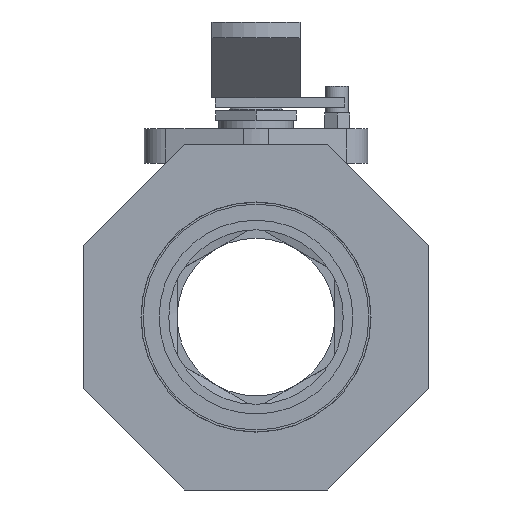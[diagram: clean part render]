
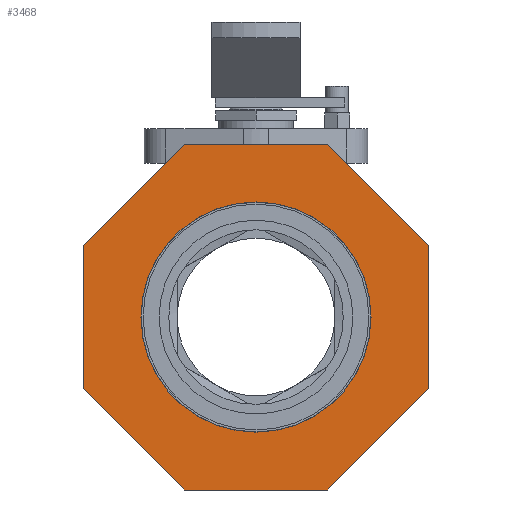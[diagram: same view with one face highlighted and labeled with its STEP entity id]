
A CAD part, left-side view. The second image highlights one B-rep face of the part: STEP entity #3468.
In plain terms, the highlighted free-form (B-spline) face has degree [1, 1] with [2, 2] control points.
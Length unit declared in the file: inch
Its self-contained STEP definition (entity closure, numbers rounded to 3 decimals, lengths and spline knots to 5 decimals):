
#3171=CARTESIAN_POINT('',(0.745,-1.4375,0.));
#3172=VERTEX_POINT('',#3171);
#3173=CARTESIAN_POINT('',(0.745,0.0,0.));
#3174=DIRECTION('',(-1.0,0.0,0.0));
#3175=DIRECTION('',(0.0,-1.0,0.0));
#3176=AXIS2_PLACEMENT_3D('',#3173,#3174,#3175);
#3177=CIRCLE('',#3176,1.4375);
#3178=EDGE_CURVE('',#3172,#3172,#3177,.T.);
#3198=CARTESIAN_POINT('',(0.745,2.16,-0.8947));
#3199=VERTEX_POINT('',#3198);
#3206=CARTESIAN_POINT('',(0.745,2.16,0.8947));
#3207=VERTEX_POINT('',#3206);
#3208=CARTESIAN_POINT('',(0.745,2.16,0.8947));
#3209=DIRECTION('',(0.0,0.0,-1.0));
#3210=VECTOR('',#3209,1.7894);
#3211=LINE('',#3208,#3210);
#3212=EDGE_CURVE('',#3207,#3199,#3211,.T.);
#3237=CARTESIAN_POINT('',(0.745,0.8947,2.16));
#3238=VERTEX_POINT('',#3237);
#3239=CARTESIAN_POINT('',(0.745,0.8947,2.16));
#3240=DIRECTION('',(0.,0.707,-0.707));
#3241=VECTOR('',#3240,1.7894);
#3242=LINE('',#3239,#3241);
#3243=EDGE_CURVE('',#3238,#3207,#3242,.T.);
#3268=CARTESIAN_POINT('',(0.745,-0.8947,2.16));
#3269=VERTEX_POINT('',#3268);
#3270=CARTESIAN_POINT('',(0.745,-0.8947,2.16));
#3271=DIRECTION('',(0.0,1.0,0.0));
#3272=VECTOR('',#3271,1.7894);
#3273=LINE('',#3270,#3272);
#3274=EDGE_CURVE('',#3269,#3238,#3273,.T.);
#3299=CARTESIAN_POINT('',(0.745,-2.16,0.8947));
#3300=VERTEX_POINT('',#3299);
#3301=CARTESIAN_POINT('',(0.745,-2.16,0.8947));
#3302=DIRECTION('',(0.,0.707,0.707));
#3303=VECTOR('',#3302,1.7894);
#3304=LINE('',#3301,#3303);
#3305=EDGE_CURVE('',#3300,#3269,#3304,.T.);
#3330=CARTESIAN_POINT('',(0.745,-2.16,-0.8947));
#3331=VERTEX_POINT('',#3330);
#3332=CARTESIAN_POINT('',(0.745,-2.16,-0.8947));
#3333=DIRECTION('',(0.0,0.0,1.0));
#3334=VECTOR('',#3333,1.7894);
#3335=LINE('',#3332,#3334);
#3336=EDGE_CURVE('',#3331,#3300,#3335,.T.);
#3361=CARTESIAN_POINT('',(0.745,-0.8947,-2.16));
#3362=VERTEX_POINT('',#3361);
#3363=CARTESIAN_POINT('',(0.745,-0.8947,-2.16));
#3364=DIRECTION('',(0.,-0.707,0.707));
#3365=VECTOR('',#3364,1.7894);
#3366=LINE('',#3363,#3365);
#3367=EDGE_CURVE('',#3362,#3331,#3366,.T.);
#3392=CARTESIAN_POINT('',(0.745,0.8947,-2.16));
#3393=VERTEX_POINT('',#3392);
#3394=CARTESIAN_POINT('',(0.745,0.8947,-2.16));
#3395=DIRECTION('',(0.0,-1.0,0.0));
#3396=VECTOR('',#3395,1.7894);
#3397=LINE('',#3394,#3396);
#3398=EDGE_CURVE('',#3393,#3362,#3397,.T.);
#3421=CARTESIAN_POINT('',(0.745,2.16,-0.8947));
#3422=DIRECTION('',(0.,-0.707,-0.707));
#3423=VECTOR('',#3422,1.7894);
#3424=LINE('',#3421,#3423);
#3425=EDGE_CURVE('',#3199,#3393,#3424,.T.);
#3450=CARTESIAN_POINT('',(0.745,-2.16,2.16));
#3451=CARTESIAN_POINT('',(0.745,-2.16,-2.16));
#3452=CARTESIAN_POINT('',(0.745,2.16,2.16));
#3453=CARTESIAN_POINT('',(0.745,2.16,-2.16));
#3454=B_SPLINE_SURFACE_WITH_KNOTS('',1,1,((#3450,#3452),(#3451,#3453)),.UNSPECIFIED.,.F.,.F.,.U.,(2,2),(2,2),(0.0,4.32),(0.0,4.32),.UNSPECIFIED.);
#3455=ORIENTED_EDGE('',*,*,#3425,.T.);
#3456=ORIENTED_EDGE('',*,*,#3398,.T.);
#3457=ORIENTED_EDGE('',*,*,#3367,.T.);
#3458=ORIENTED_EDGE('',*,*,#3336,.T.);
#3459=ORIENTED_EDGE('',*,*,#3305,.T.);
#3460=ORIENTED_EDGE('',*,*,#3274,.T.);
#3461=ORIENTED_EDGE('',*,*,#3243,.T.);
#3462=ORIENTED_EDGE('',*,*,#3212,.T.);
#3463=EDGE_LOOP('',(#3455,#3456,#3457,#3458,#3459,#3460,#3461,#3462));
#3464=FACE_OUTER_BOUND('',#3463,.T.);
#3465=ORIENTED_EDGE('',*,*,#3178,.F.);
#3466=EDGE_LOOP('',(#3465));
#3467=FACE_BOUND('',#3466,.T.);
#3468=ADVANCED_FACE('',(#3464,#3467),#3454,.F.);
